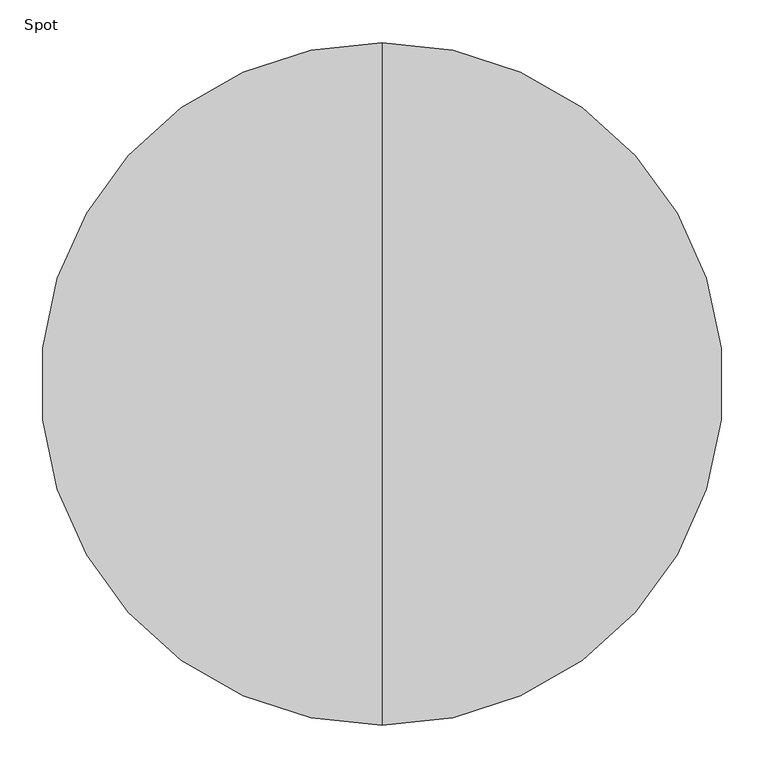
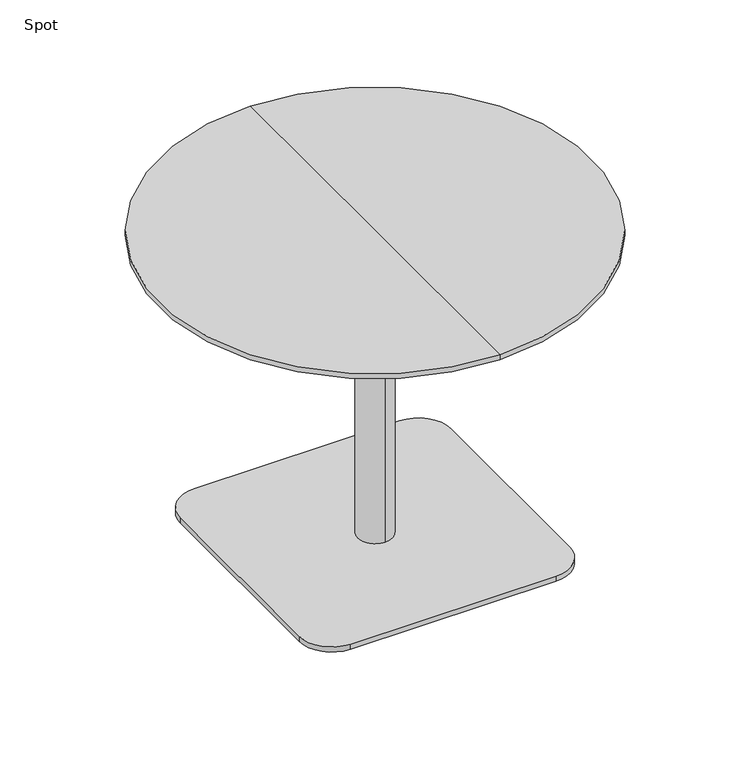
"""IFC4 building model written with IfcOpenShell, lengths in millimetres: furniture geometry, Spot : Bø80x60s."""

import ifcopenshell
import ifcopenshell.guid

model = None  # the IFC model being written
_history = None  # IfcOwnerHistory: only IFC2X3 demands one
_inside = {}  # id of a spatial element -> (the spatial element, [elements in it])
_under = {}  # id of a project, library or spatial element -> (it, [spatial elements below it])
_declared = {}  # id of a project -> (the project, [libraries it declares])
_typed = {}  # id of a type object -> (the type object, [elements of that type])
_made_of = {}  # id of a material, layer set ... -> (it, [elements and type objects made of it])


def new_model(schema):
    """Start an empty IFC model of exactly this schema.

    Asked for "IFC4X3", IfcOpenShell would pick the latest addendum, in which some entities
    have other attributes; the version numbers below select the first issue.
    IFC2X3 requires an IfcOwnerHistory on every rooted entity: one is made here for all.
    """
    global model, _history
    if schema == "IFC4X3":
        model = ifcopenshell.file(schema_version=(4, 3, 0, 0))
    else:
        model = ifcopenshell.file(schema=schema)
    _inside.clear()
    _under.clear()
    _declared.clear()
    _typed.clear()
    _made_of.clear()
    _history = None
    if model.schema == "IFC2X3":
        org = make("IfcOrganization", Name="unknown")
        user = make(
            "IfcPersonAndOrganization",
            ThePerson=make("IfcPerson", FamilyName="unknown"),
            TheOrganization=org,
        )
        app = make(
            "IfcApplication",
            ApplicationDeveloper=org,
            Version="unknown",
            ApplicationFullName="unknown",
            ApplicationIdentifier="unknown",
        )
        _history = make(
            "IfcOwnerHistory",
            OwningUser=user,
            OwningApplication=app,
            ChangeAction="ADDED",
            CreationDate=0,
        )
    return model


def make(cls, **values):
    """One entity of the class cls with the attributes given. An attribute that is None is left unset."""
    return model.create_entity(
        cls, **{name: value for name, value in values.items() if value is not None}
    )


def rooted(cls, **values):
    """An entity with a GlobalId (a new one), such as an element, a storey or a relation."""
    return make(cls, GlobalId=ifcopenshell.guid.new(), OwnerHistory=_history, **values)


def si_unit(unit_type, name, prefix=None):
    """IfcSIUnit, for example si_unit("LENGTHUNIT", "METRE", prefix="MILLI")."""
    return make("IfcSIUnit", UnitType=unit_type, Prefix=prefix, Name=name)


def assignment(units):
    """IfcUnitAssignment: the units of a project."""
    return None if units is None else make("IfcUnitAssignment", Units=units)


def point(xyz):
    """IfcCartesianPoint."""
    return None if xyz is None else make("IfcCartesianPoint", Coordinates=xyz)


def direction(xyz):
    """IfcDirection."""
    return None if xyz is None else make("IfcDirection", DirectionRatios=xyz)


def frame(location, z_axis=None, x_axis=None):
    """IfcAxis2Placement3D, a coordinate frame: its origin and axes. An axis left out is left unset."""
    return make(
        "IfcAxis2Placement3D",
        Location=point(location),
        Axis=direction(z_axis),
        RefDirection=direction(x_axis),
    )


def frame_2d(location, x_axis=None):
    """IfcAxis2Placement2D, a coordinate frame in the plane: its origin and x axis."""
    return make(
        "IfcAxis2Placement2D", Location=point(location), RefDirection=direction(x_axis)
    )


def origin():
    """The frame at (0, 0, 0) with its axes left unset."""
    return frame((0.0, 0.0, 0.0))


def origin_with_axes():
    """The frame at (0, 0, 0) with the z axis (0, 0, 1) and the x axis (1, 0, 0) written out."""
    return frame((0.0, 0.0, 0.0), z_axis=(0.0, 0.0, 1.0), x_axis=(1.0, 0.0, 0.0))


def place(relative_to, where):
    """IfcLocalPlacement: puts the frame where relative to a parent placement (None: the world)."""
    return make(
        "IfcLocalPlacement", PlacementRelTo=relative_to, RelativePlacement=where
    )


def context(
    kind, dimensions, precision=None, world=None, true_north=None, identifier=None
):
    """IfcGeometricRepresentationContext, for example the 3D "Model" context."""
    return make(
        "IfcGeometricRepresentationContext",
        ContextIdentifier=identifier,
        ContextType=kind,
        CoordinateSpaceDimension=dimensions,
        Precision=precision,
        WorldCoordinateSystem=world,
        TrueNorth=true_north,
    )


def project(units=None, contexts=None):
    """IfcProject with its units and contexts."""
    return rooted(
        "IfcProject",
        Name="project",
        RepresentationContexts=contexts,
        UnitsInContext=assignment(units),
    )


def spatial(cls, under=None, at=None, **own):
    """A site, building, storey or space (cls), placed at a placement, below another one or the project."""
    s = rooted(cls, ObjectPlacement=at, **own)
    if under is not None:
        _under.setdefault(under.id(), (under, []))[1].append(s)
    return s


def polyline(points):
    """IfcPolyline through the points."""
    return make("IfcPolyline", Points=[point(p) for p in points])


def circle_curve(where, radius):
    """IfcCircle in the frame where."""
    return make("IfcCircle", Position=where, Radius=radius)


def trimmed(basis, trim1, trim2, sense, master):
    """IfcTrimmedCurve: the piece of a basis curve between two trims."""
    return make(
        "IfcTrimmedCurve",
        BasisCurve=basis,
        Trim1=trim1,
        Trim2=trim2,
        SenseAgreement=sense,
        MasterRepresentation=master,
    )


def segment(curve, same_sense, transition):
    """IfcCompositeCurveSegment."""
    return make(
        "IfcCompositeCurveSegment",
        Transition=transition,
        SameSense=same_sense,
        ParentCurve=curve,
    )


def composite_curve(segments, self_intersect=None):
    """IfcCompositeCurve: segments joined end to end."""
    return make("IfcCompositeCurve", Segments=segments, SelfIntersect=self_intersect)


def outline(outer, holes=None, kind="AREA"):
    """IfcArbitraryClosedProfileDef: a profile drawn as a closed curve; with holes, ...WithVoids."""
    if holes is None:
        return make("IfcArbitraryClosedProfileDef", ProfileType=kind, OuterCurve=outer)
    return make(
        "IfcArbitraryProfileDefWithVoids",
        ProfileType=kind,
        OuterCurve=outer,
        InnerCurves=holes,
    )


def extrude(swept, where, along, depth):
    """IfcExtrudedAreaSolid: the profile swept, set in the frame where, extruded along a direction by depth."""
    return make(
        "IfcExtrudedAreaSolid",
        SweptArea=swept,
        Position=where,
        ExtrudedDirection=direction(along),
        Depth=depth,
    )


def shape(context_of_items, identifier, shape_type, items):
    """IfcShapeRepresentation: the items that make up one representation, for example the "Body"."""
    return make(
        "IfcShapeRepresentation",
        ContextOfItems=context_of_items,
        RepresentationIdentifier=identifier,
        RepresentationType=shape_type,
        Items=items,
    )


def source(mapping_origin, context_of_items, identifier, shape_type, items):
    """IfcRepresentationMap: a shape defined once, which mapped items show again and again."""
    return make(
        "IfcRepresentationMap",
        MappingOrigin=mapping_origin,
        MappedRepresentation=shape(context_of_items, identifier, shape_type, items),
    )


def transform(
    local_origin,
    x_axis=None,
    y_axis=None,
    z_axis=None,
    scale=None,
    scale2=None,
    scale3=None,
    uniform=True,
):
    """IfcCartesianTransformationOperator3D, or its non-uniform kind. x_axis, y_axis, z_axis: its Axis1, 2, 3."""
    if uniform:
        return make(
            "IfcCartesianTransformationOperator3D",
            Axis1=direction(x_axis),
            Axis2=direction(y_axis),
            LocalOrigin=point(local_origin),
            Scale=scale,
            Axis3=direction(z_axis),
        )
    return make(
        "IfcCartesianTransformationOperator3DnonUniform",
        Axis1=direction(x_axis),
        Axis2=direction(y_axis),
        LocalOrigin=point(local_origin),
        Scale=scale,
        Axis3=direction(z_axis),
        Scale2=scale2,
        Scale3=scale3,
    )


def mapped(mapping_source, mapping_target):
    """IfcMappedItem: shows the shape of a source again, moved by a transform."""
    return make(
        "IfcMappedItem", MappingSource=mapping_source, MappingTarget=mapping_target
    )


def made_of(thing, what):
    """Note that an element or type object is made of a material, layer set ...; save() writes the relation."""
    if what is not None:
        _made_of.setdefault(what.id(), (what, []))[1].append(thing)
    return thing


def element(
    cls,
    number,
    at=None,
    inside=None,
    cuts=None,
    type_object=None,
    material=None,
    context=None,
    identifier="Body",
    shape_type=None,
    held_by="IfcProductDefinitionShape",
    body=None,
    shapes=None,
    **own,
):
    """One element of the class cls, such as IfcWall. Its Tag is "e" and its number.

    at: its placement. inside: the storey or other place that contains it. cuts: it is an
    opening in that element (IfcRelVoidsElement). A single representation is given by context,
    identifier, shape_type and body (its items); several are given by shapes. held_by: the class
    of the entity that holds the representations. save() writes the other relations.
    """
    e = rooted(cls, Tag="e%d" % number, ObjectPlacement=at, **own)
    if body is not None:
        shapes = [shape(context, identifier, shape_type, body)]
    if shapes is not None:
        e.Representation = make(held_by, Representations=shapes)
    if inside is not None:
        _inside.setdefault(inside.id(), (inside, []))[1].append(e)
    if cuts is not None:
        rooted(
            "IfcRelVoidsElement", RelatingBuildingElement=cuts, RelatedOpeningElement=e
        )
    if type_object is not None:
        _typed.setdefault(type_object.id(), (type_object, []))[1].append(e)
    return made_of(e, material)


def aggregate(whole, parts):
    """IfcRelAggregates: a whole, such as a stair, and the parts it consists of."""
    return rooted("IfcRelAggregates", RelatingObject=whole, RelatedObjects=parts)


def save(model, path):
    """Write the relations noted so far, then the file.

    IfcRelAggregates (storeys below a building ...), IfcRelContainedInSpatialStructure (elements
    in a storey), IfcRelDefinesByType, IfcRelAssociatesMaterial and IfcRelDeclares: one each for
    every whole, place, type object, material and project.
    """
    for whole, parts in _under.values():
        aggregate(whole, parts)
    for where, things in _inside.values():
        rooted(
            "IfcRelContainedInSpatialStructure",
            RelatedElements=things,
            RelatingStructure=where,
        )
    for kind, things in _typed.values():
        rooted("IfcRelDefinesByType", RelatedObjects=things, RelatingType=kind)
    for what, things in _made_of.values():
        rooted("IfcRelAssociatesMaterial", RelatedObjects=things, RelatingMaterial=what)
    for by, libraries in _declared.values():
        rooted("IfcRelDeclares", RelatingContext=by, RelatedDefinitions=libraries)
    model.write(path)


def plane_surface(at):
    """IfcPlane: the flat surface through the origin of the frame at, square to its z axis."""
    return make("IfcPlane", Position=at)


def cylinder_surface(at, radius):
    """IfcCylindricalSurface: all points at the distance radius from the z axis of the frame at."""
    return make("IfcCylindricalSurface", Position=at, Radius=radius)


def revolved_surface(curve, axis_point, axis_direction):
    """IfcSurfaceOfRevolution: the curve turned about the line through axis_point along axis_direction."""
    return make(
        "IfcSurfaceOfRevolution",
        SweptCurve=make("IfcArbitraryOpenProfileDef", ProfileType="CURVE", Curve=curve),
        AxisPosition=make("IfcAxis1Placement", Location=point(axis_point), Axis=direction(axis_direction)),
    )


def advanced_brep(points, edges, surfaces, faces):
    """IfcAdvancedBrep: a solid bounded by faces that lie on surfaces and meet in shared edges.

    An edge is (start, end): straight between two places in points (the first is 0);
    or (start, end, curve); or (start, end, curve, False) where it runs against its curve.
    A face is (place in surfaces, loops), or (place, loops, False) where it looks against
    its surface's normal. A loop lists edges by number (the first is 1), with a minus sign
    where the edge is run from its end to its start. The first loop is the outer one.
    """
    corners = [point(p) for p in points]
    vertices = [make("IfcVertexPoint", VertexGeometry=c) for c in corners]
    made = []
    for start, end, *more in edges:
        made.append(
            make(
                "IfcEdgeCurve",
                EdgeStart=vertices[start],
                EdgeEnd=vertices[end],
                EdgeGeometry=more[0] if more else make("IfcPolyline", Points=[corners[start], corners[end]]),
                SameSense=more[1] if len(more) > 1 else True,
            )
        )
    hull = []
    for where, loops, *sense in faces:
        bounds = []
        for j, loop in enumerate(loops):
            ring = [make("IfcOrientedEdge", EdgeElement=made[abs(k) - 1], Orientation=k > 0) for k in loop]
            bounds.append(
                make(
                    "IfcFaceOuterBound" if j == 0 else "IfcFaceBound",
                    Bound=make("IfcEdgeLoop", EdgeList=ring),
                    Orientation=True,
                )
            )
        hull.append(make("IfcAdvancedFace", Bounds=bounds, FaceSurface=surfaces[where], SameSense=sense[0] if sense else True))
    return make("IfcAdvancedBrep", Outer=make("IfcClosedShell", CfsFaces=hull))


def spot_f6231554(model_context):
    return source(origin(), model_context, "Body", "SolidModel", [
        advanced_brep(
        [(0.0, 400.0, 600.0), (0.0, -400.0, 600.0), (0.0, 0.0, 600.0), (0.0, 400.0, 590.25), (0.0, -400.0, 590.25), (0.0, 354.2823776, 578.0), (0.0, -354.2823776, 578.0), (0.0, 0.0, 578.0)],
        [
            (0, 1, circle_curve(frame((0.0, 0.0, 600.0), z_axis=(0.0, 0.0, 1.0), x_axis=(0.0, -1.0, 0.0)), 400.0)),
            (1, 2),
            (2, 0),
            (1, 0, circle_curve(frame((0.0, 0.0, 600.0), z_axis=(0.0, 0.0, 1.0), x_axis=(0.0, -1.0, 0.0)), 400.0)),
            (3, 4, circle_curve(frame((0.0, 0.0, 590.25), z_axis=(0.0, 0.0, 1.0), x_axis=(0.0, -1.0, 0.0)), 400.0)),
            (4, 1),
            (0, 3),
            (4, 3, circle_curve(frame((0.0, 0.0, 590.25), z_axis=(0.0, 0.0, 1.0), x_axis=(0.0, -1.0, 0.0)), 400.0)),
            (5, 6, circle_curve(frame((0.0, 0.0, 578.0), z_axis=(0.0, 0.0, 1.0), x_axis=(0.0, -1.0, 0.0)), 354.2823776)),
            (6, 4),
            (3, 5),
            (6, 5, circle_curve(frame((0.0, 0.0, 578.0), z_axis=(0.0, 0.0, 1.0), x_axis=(0.0, -1.0, 0.0)), 354.2823776)),
            (7, 6),
            (5, 7),
        ],
        [
            plane_surface(frame((0.0, 0.0, 600.0), z_axis=(0.0, 0.0, 1.0), x_axis=(0.0, -1.0, 0.0))),
            cylinder_surface(frame((0.0, 0.0, 680.0), z_axis=(0.0, 0.0, -1.0), x_axis=(0.0, -1.0, 0.0)), 400.0),
            revolved_surface(polyline([(0.0, -400.0, 590.25), (0.0, -354.2823776, 578.0)]), (0.0, 0.0, 680.0), (0.0, 0.0, -1.0)),
            plane_surface(frame((0.0, 0.0, 578.0), z_axis=(0.0, 0.0, -1.0), x_axis=(0.0, -1.0, 0.0))),
        ],
        [
            (0, [[1, 2, 3]]),
            (0, [[4, -3, -2]]),
            (1, [[5, 6, -1, 7]]),
            (1, [[8, -7, -4, -6]]),
            (2, [[9, 10, -5, 11]]),
            (2, [[12, -11, -8, -10]]),
            (3, [[13, -9, 14]]),
            (3, [[-14, -12, -13]]),
        ],
    ),
        extrude(outline(composite_curve([segment(trimmed(circle_curve(frame_2d((190.0, 190.0)), 60.0), [point((190.0, 250.0))], [point((250.0, 190.0))], False, "CARTESIAN"), True, "CONTINUOUS"), segment(polyline([(250.0, 190.0), (250.0, -190.0)]), True, "CONTINUOUS"), segment(trimmed(circle_curve(frame_2d((190.0, -190.0)), 60.0), [point((250.0, -190.0))], [point((190.0, -250.0))], False, "CARTESIAN"), True, "CONTINUOUS"), segment(polyline([(190.0, -250.0), (-190.0, -250.0)]), True, "CONTINUOUS"), segment(trimmed(circle_curve(frame_2d((-190.0, -190.0)), 60.0), [point((-190.0, -250.0))], [point((-250.0, -190.0))], False, "CARTESIAN"), True, "CONTINUOUS"), segment(polyline([(-250.0, -190.0), (-250.0, 190.0)]), True, "CONTINUOUS"), segment(trimmed(circle_curve(frame_2d((-190.0, 190.0)), 60.0), [point((-250.0, 190.0))], [point((-190.0, 250.0))], False, "CARTESIAN"), True, "CONTINUOUS"), segment(polyline([(-190.0, 250.0), (190.0, 250.0)]), True, "CONTINUOUS")], self_intersect=False)), origin_with_axes(), (0.0, 0.0, 1.0), 10.0),
        advanced_brep(
        [(0.0, 32.0, 10.0), (0.0, -32.0, 10.0), (0.0, -32.0, 547.406916), (0.0, 32.0, 547.406916), (0.0, 0.0, 10.0), (0.0, 150.0, 578.0), (0.0, -150.0, 578.0), (0.0, 0.0, 578.0), (0.0, 150.0, 566.7213673), (0.0, -150.0, 566.7213673)],
        [
            (0, 1, circle_curve(frame((0.0, 0.0, 10.0), z_axis=(0.0, 0.0, 1.0), x_axis=(0.0, -1.0, 0.0)), 32.0)),
            (1, 2),
            (2, 3, circle_curve(frame((0.0, 0.0, 547.406916), z_axis=(0.0, 0.0, -1.0), x_axis=(0.0, -1.0, 0.0)), 32.0)),
            (3, 0),
            (1, 0, circle_curve(frame((0.0, 0.0, 10.0), z_axis=(0.0, 0.0, 1.0), x_axis=(0.0, -1.0, 0.0)), 32.0)),
            (3, 2, circle_curve(frame((0.0, 0.0, 547.406916), z_axis=(0.0, 0.0, -1.0), x_axis=(0.0, -1.0, 0.0)), 32.0)),
            (4, 1),
            (0, 4),
            (5, 6, circle_curve(frame((0.0, 0.0, 578.0), z_axis=(0.0, 0.0, 1.0), x_axis=(0.0, -1.0, 0.0)), 150.0)),
            (6, 7),
            (7, 5),
            (6, 5, circle_curve(frame((0.0, 0.0, 578.0), z_axis=(0.0, 0.0, 1.0), x_axis=(0.0, -1.0, 0.0)), 150.0)),
            (8, 9, circle_curve(frame((0.0, 0.0, 566.7213673), z_axis=(0.0, 0.0, 1.0), x_axis=(0.0, -1.0, 0.0)), 150.0)),
            (9, 6),
            (5, 8),
            (9, 8, circle_curve(frame((0.0, 0.0, 566.7213673), z_axis=(0.0, 0.0, 1.0), x_axis=(0.0, -1.0, 0.0)), 150.0)),
            (2, 9),
            (8, 3),
        ],
        [
            cylinder_surface(frame((0.0, 0.0, 940.0), z_axis=(0.0, 0.0, -1.0), x_axis=(0.0, -1.0, 0.0)), 32.0),
            plane_surface(frame((0.0, 0.0, 10.0), z_axis=(0.0, 0.0, -1.0), x_axis=(0.0, -1.0, 0.0))),
            plane_surface(frame((0.0, 0.0, 578.0), z_axis=(0.0, 0.0, 1.0), x_axis=(0.0, -1.0, 0.0))),
            cylinder_surface(frame((0.0, 0.0, 940.0), z_axis=(0.0, 0.0, -1.0), x_axis=(0.0, -1.0, 0.0)), 150.0),
            revolved_surface(polyline([(0.0, -150.0, 566.7213673), (0.0, -32.0, 547.406916)]), (0.0, 0.0, 940.0), (0.0, 0.0, -1.0)),
        ],
        [
            (0, [[1, 2, 3, 4]]),
            (0, [[5, -4, 6, -2]]),
            (1, [[7, -1, 8]]),
            (1, [[-8, -5, -7]]),
            (2, [[9, 10, 11]]),
            (2, [[12, -11, -10]]),
            (3, [[13, 14, -9, 15]]),
            (3, [[16, -15, -12, -14]]),
            (4, [[-3, 17, -13, 18]]),
            (4, [[-6, -18, -16, -17]]),
        ],
    ),
        extrude(outline(polyline([(0.0, 0.0), (-20.0, 0.0), (-20.0, 20.0), (0.0, 20.0), (0.0, 0.0)])), origin_with_axes(), (0.0, 0.0, 1.0), 10.0),
    ])


if __name__ == "__main__":
    model = new_model("IFC4")
    model_context = context("Model", 3, world=origin())
    ifc_project = project(units=[si_unit("LENGTHUNIT", "METRE", prefix="MILLI")], contexts=[model_context])
    site = spatial("IfcSite", under=ifc_project)
    building = spatial("IfcBuilding", under=site)
    placement = place(None, origin())
    spot_shape = spot_f6231554(model_context)
    element("IfcFurniture", 1, ObjectType="Spot : Bø80x60s", at=placement, inside=building, context=model_context, shape_type="MappedRepresentation", body=[
        mapped(spot_shape, transform((0.0, 0.0, 0.0), x_axis=(1.0, 0.0, 0.0), y_axis=(0.0, 1.0, 0.0), z_axis=(0.0, 0.0, 1.0))),
    ])
    save(model, "model.ifc")
